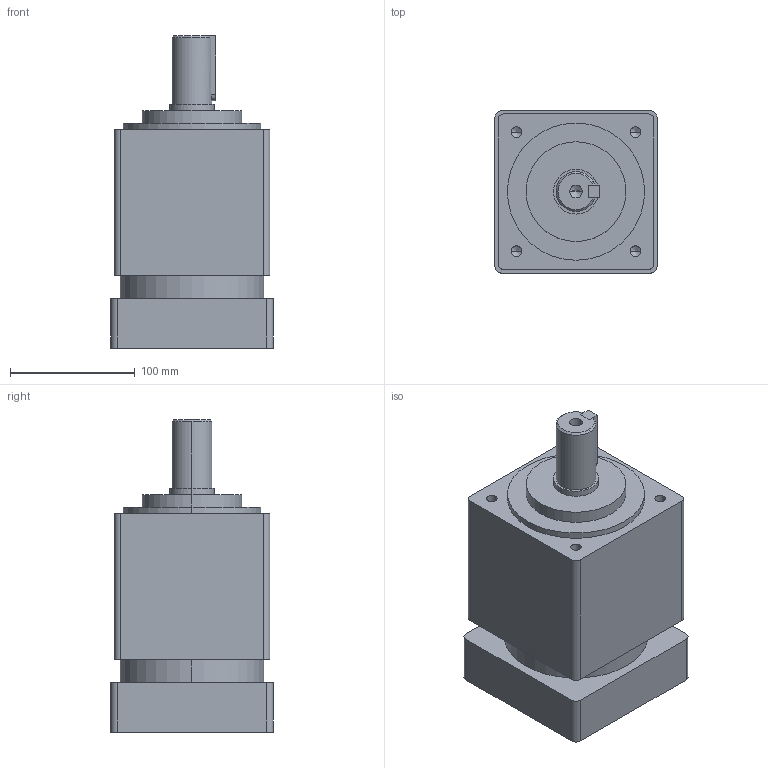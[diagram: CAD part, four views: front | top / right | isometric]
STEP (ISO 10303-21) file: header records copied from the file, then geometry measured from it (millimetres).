
FILE_DESCRIPTION (( 'STEP AP214' ), '1' );
FILE_NAME ('VRSF-125L2.STEP', '2019-09-09T03:51:21', ( '微软用户' ), ( '微软中国' ), 'SwSTEP 2.0', 'SolidWorks 2014', '' );
FILE_SCHEMA (( 'AUTOMOTIVE_DESIGN' ));
Length unit declared in the file: millimetre
Products named in the file (2): VRSF-125L2
Bounding box: 130 x 130 x 250.5 mm (x, y, z)
Volume: 2740426.2 mm3; surface area: 153096.2 mm2
Topology: 2 solids, 3 shells, 718 faces, 2037 edges, 1343 vertices
Faces by surface type: plane 593, bspline 60, cylinder 44, cone 21
Entity records: 30022 total; most frequent: CARTESIAN_POINT 4902, ORIENTED_EDGE 4038, DIRECTION 3307, EDGE_CURVE 2019, VECTOR 1803, LINE 1803, VERTEX_POINT 1343, EDGE_LOOP 754
